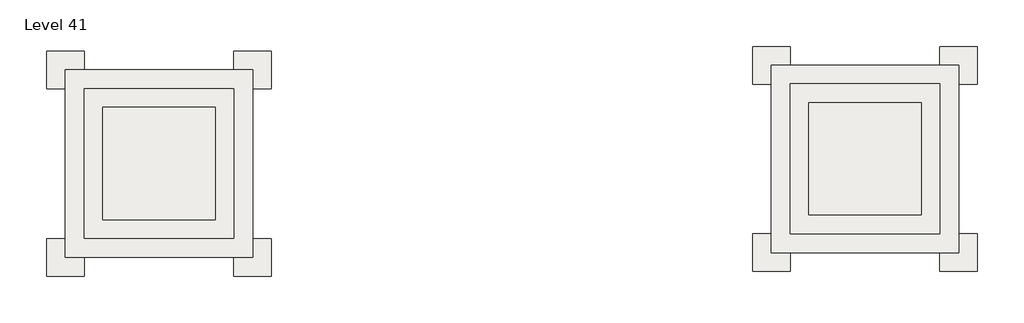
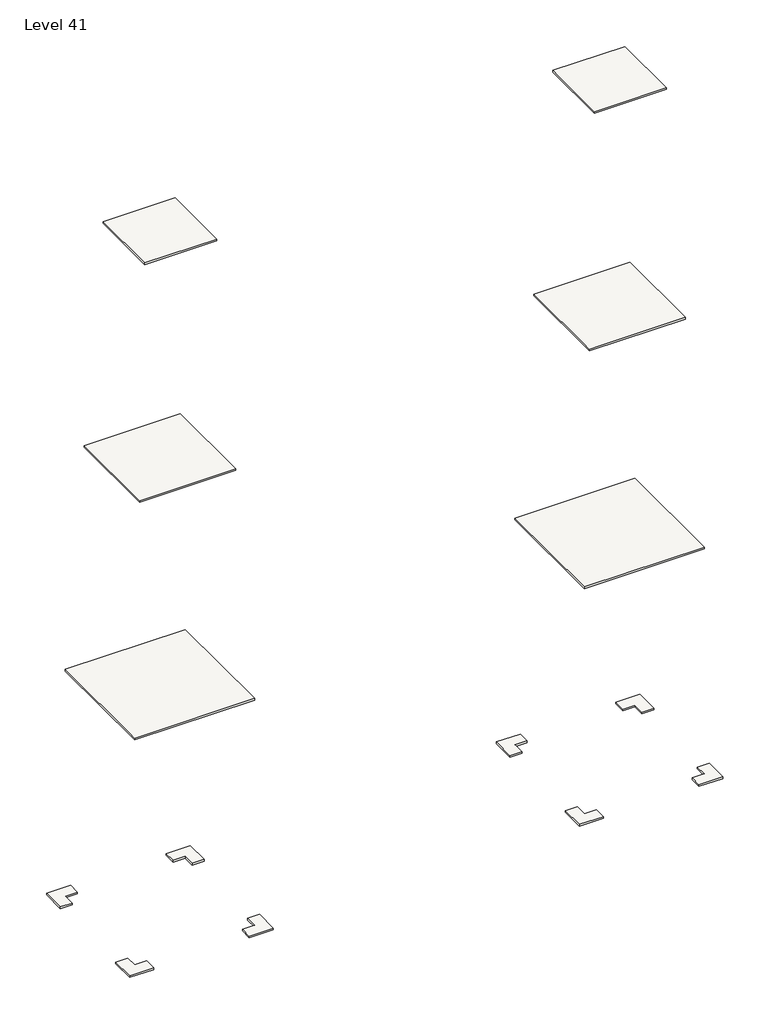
# One storey: 8 roofs.
"""IFC4 building model written with IfcOpenShell, lengths in millimetres."""

import ifcopenshell
import ifcopenshell.guid

model = None  # the IFC model being written
_history = None  # IfcOwnerHistory: only IFC2X3 demands one
_inside = {}  # id of a spatial element -> (the spatial element, [elements in it])
_under = {}  # id of a project, library or spatial element -> (it, [spatial elements below it])
_declared = {}  # id of a project -> (the project, [libraries it declares])
_typed = {}  # id of a type object -> (the type object, [elements of that type])
_made_of = {}  # id of a material, layer set ... -> (it, [elements and type objects made of it])


def new_model(schema):
    """Start an empty IFC model of exactly this schema.

    Asked for "IFC4X3", IfcOpenShell would pick the latest addendum, in which some entities
    have other attributes; the version numbers below select the first issue.
    IFC2X3 requires an IfcOwnerHistory on every rooted entity: one is made here for all.
    """
    global model, _history
    if schema == "IFC4X3":
        model = ifcopenshell.file(schema_version=(4, 3, 0, 0))
    else:
        model = ifcopenshell.file(schema=schema)
    _inside.clear()
    _under.clear()
    _declared.clear()
    _typed.clear()
    _made_of.clear()
    _history = None
    if model.schema == "IFC2X3":
        org = make("IfcOrganization", Name="unknown")
        user = make(
            "IfcPersonAndOrganization",
            ThePerson=make("IfcPerson", FamilyName="unknown"),
            TheOrganization=org,
        )
        app = make(
            "IfcApplication",
            ApplicationDeveloper=org,
            Version="unknown",
            ApplicationFullName="unknown",
            ApplicationIdentifier="unknown",
        )
        _history = make(
            "IfcOwnerHistory",
            OwningUser=user,
            OwningApplication=app,
            ChangeAction="ADDED",
            CreationDate=0,
        )
    return model


def make(cls, **values):
    """One entity of the class cls with the attributes given. An attribute that is None is left unset."""
    return model.create_entity(
        cls, **{name: value for name, value in values.items() if value is not None}
    )


def rooted(cls, **values):
    """An entity with a GlobalId (a new one), such as an element, a storey or a relation."""
    return make(cls, GlobalId=ifcopenshell.guid.new(), OwnerHistory=_history, **values)


def si_unit(unit_type, name, prefix=None):
    """IfcSIUnit, for example si_unit("LENGTHUNIT", "METRE", prefix="MILLI")."""
    return make("IfcSIUnit", UnitType=unit_type, Prefix=prefix, Name=name)


def assignment(units):
    """IfcUnitAssignment: the units of a project."""
    return None if units is None else make("IfcUnitAssignment", Units=units)


def point(xyz):
    """IfcCartesianPoint."""
    return None if xyz is None else make("IfcCartesianPoint", Coordinates=xyz)


def direction(xyz):
    """IfcDirection."""
    return None if xyz is None else make("IfcDirection", DirectionRatios=xyz)


def frame(location, z_axis=None, x_axis=None):
    """IfcAxis2Placement3D, a coordinate frame: its origin and axes. An axis left out is left unset."""
    return make(
        "IfcAxis2Placement3D",
        Location=point(location),
        Axis=direction(z_axis),
        RefDirection=direction(x_axis),
    )


def origin():
    """The frame at (0, 0, 0) with its axes left unset."""
    return frame((0.0, 0.0, 0.0))


def place(relative_to, where):
    """IfcLocalPlacement: puts the frame where relative to a parent placement (None: the world)."""
    return make(
        "IfcLocalPlacement", PlacementRelTo=relative_to, RelativePlacement=where
    )


def context(
    kind, dimensions, precision=None, world=None, true_north=None, identifier=None
):
    """IfcGeometricRepresentationContext, for example the 3D "Model" context."""
    return make(
        "IfcGeometricRepresentationContext",
        ContextIdentifier=identifier,
        ContextType=kind,
        CoordinateSpaceDimension=dimensions,
        Precision=precision,
        WorldCoordinateSystem=world,
        TrueNorth=true_north,
    )


def project(units=None, contexts=None):
    """IfcProject with its units and contexts."""
    return rooted(
        "IfcProject",
        Name="project",
        RepresentationContexts=contexts,
        UnitsInContext=assignment(units),
    )


def spatial(cls, under=None, at=None, **own):
    """A site, building, storey or space (cls), placed at a placement, below another one or the project."""
    s = rooted(cls, ObjectPlacement=at, **own)
    if under is not None:
        _under.setdefault(under.id(), (under, []))[1].append(s)
    return s


def polyline(points):
    """IfcPolyline through the points."""
    return make("IfcPolyline", Points=[point(p) for p in points])


def outline(outer, holes=None, kind="AREA"):
    """IfcArbitraryClosedProfileDef: a profile drawn as a closed curve; with holes, ...WithVoids."""
    if holes is None:
        return make("IfcArbitraryClosedProfileDef", ProfileType=kind, OuterCurve=outer)
    return make(
        "IfcArbitraryProfileDefWithVoids",
        ProfileType=kind,
        OuterCurve=outer,
        InnerCurves=holes,
    )


def extrude(swept, where, along, depth):
    """IfcExtrudedAreaSolid: the profile swept, set in the frame where, extruded along a direction by depth."""
    return make(
        "IfcExtrudedAreaSolid",
        SweptArea=swept,
        Position=where,
        ExtrudedDirection=direction(along),
        Depth=depth,
    )


def shape(context_of_items, identifier, shape_type, items):
    """IfcShapeRepresentation: the items that make up one representation, for example the "Body"."""
    return make(
        "IfcShapeRepresentation",
        ContextOfItems=context_of_items,
        RepresentationIdentifier=identifier,
        RepresentationType=shape_type,
        Items=items,
    )


def made_of(thing, what):
    """Note that an element or type object is made of a material, layer set ...; save() writes the relation."""
    if what is not None:
        _made_of.setdefault(what.id(), (what, []))[1].append(thing)
    return thing


def element(
    cls,
    number,
    at=None,
    inside=None,
    cuts=None,
    type_object=None,
    material=None,
    context=None,
    identifier="Body",
    shape_type=None,
    held_by="IfcProductDefinitionShape",
    body=None,
    shapes=None,
    **own,
):
    """One element of the class cls, such as IfcWall. Its Tag is "e" and its number.

    at: its placement. inside: the storey or other place that contains it. cuts: it is an
    opening in that element (IfcRelVoidsElement). A single representation is given by context,
    identifier, shape_type and body (its items); several are given by shapes. held_by: the class
    of the entity that holds the representations. save() writes the other relations.
    """
    e = rooted(cls, Tag="e%d" % number, ObjectPlacement=at, **own)
    if body is not None:
        shapes = [shape(context, identifier, shape_type, body)]
    if shapes is not None:
        e.Representation = make(held_by, Representations=shapes)
    if inside is not None:
        _inside.setdefault(inside.id(), (inside, []))[1].append(e)
    if cuts is not None:
        rooted(
            "IfcRelVoidsElement", RelatingBuildingElement=cuts, RelatedOpeningElement=e
        )
    if type_object is not None:
        _typed.setdefault(type_object.id(), (type_object, []))[1].append(e)
    return made_of(e, material)


def aggregate(whole, parts):
    """IfcRelAggregates: a whole, such as a stair, and the parts it consists of."""
    return rooted("IfcRelAggregates", RelatingObject=whole, RelatedObjects=parts)


def save(model, path):
    """Write the relations noted so far, then the file.

    IfcRelAggregates (storeys below a building ...), IfcRelContainedInSpatialStructure (elements
    in a storey), IfcRelDefinesByType, IfcRelAssociatesMaterial and IfcRelDeclares: one each for
    every whole, place, type object, material and project.
    """
    for whole, parts in _under.values():
        aggregate(whole, parts)
    for where, things in _inside.values():
        rooted(
            "IfcRelContainedInSpatialStructure",
            RelatedElements=things,
            RelatingStructure=where,
        )
    for kind, things in _typed.values():
        rooted("IfcRelDefinesByType", RelatedObjects=things, RelatingType=kind)
    for what, things in _made_of.values():
        rooted("IfcRelAssociatesMaterial", RelatedObjects=things, RelatingMaterial=what)
    for by, libraries in _declared.values():
        rooted("IfcRelDeclares", RelatingContext=by, RelatedDefinitions=libraries)
    model.write(path)


model = new_model("IFC4")

# Units and contexts
model_context = context("Model", 3, world=origin())
ifc_project = project(units=[si_unit("LENGTHUNIT", "METRE", prefix="MILLI")], contexts=[model_context])

# Site, building, storey
site = spatial("IfcSite", under=ifc_project)
building = spatial("IfcBuilding", under=site)
storey = spatial("IfcBuildingStorey", under=building, Name="Level 41", Elevation=121920.0)

# Roofs
placement = place(None, origin())
element("IfcRoof", 1, ObjectType="Generic - 9\"", at=placement, inside=storey, context=model_context, shape_type="SweptSolid", body=[
    extrude(outline(polyline([(-4075.4161695, -4218.0504489), (-4075.4161695, -7266.0504489), (-7123.4161695, -7266.0504489), (-7123.4161695, -5742.0504489), (-5599.4161695, -5742.0504489), (-5599.4161695, -4218.0504489), (-4075.4161695, -4218.0504489)])), frame((0.0, 0.0, 30251.4), z_axis=(0.0, 0.0, 1.0), x_axis=(1.0, 0.0, 0.0)), (0.0, 0.0, 1.0), 228.6),
    extrude(outline(polyline([(-22363.4161695, -4218.0504489), (-20839.4161695, -4218.0504489), (-20839.4161695, -5742.0504489), (-19315.4161695, -5742.0504489), (-19315.4161695, -7266.0504489), (-22363.4161695, -7266.0504489), (-22363.4161695, -4218.0504489)])), frame((0.0, 0.0, 30251.4), z_axis=(0.0, 0.0, 1.0), x_axis=(1.0, 0.0, 0.0)), (0.0, 0.0, 1.0), 228.6),
    extrude(outline(polyline([(-4075.4161695, 7973.9495511), (-5599.4161695, 7973.9495511), (-5599.4161695, 9497.9495511), (-7123.4161695, 9497.9495511), (-7123.4161695, 11021.9495511), (-4075.4161695, 11021.9495511), (-4075.4161695, 7973.9495511)])), frame((0.0, 0.0, 30251.4), z_axis=(0.0, 0.0, 1.0), x_axis=(1.0, 0.0, 0.0)), (0.0, 0.0, 1.0), 228.6),
    extrude(outline(polyline([(-22363.4161695, 7973.9495511), (-22363.4161695, 11021.9495511), (-19315.4161695, 11021.9495511), (-19315.4161695, 9497.9495511), (-20839.4161695, 9497.9495511), (-20839.4161695, 7973.9495511), (-22363.4161695, 7973.9495511)])), frame((0.0, 0.0, 30251.4), z_axis=(0.0, 0.0, 1.0), x_axis=(1.0, 0.0, 0.0)), (0.0, 0.0, 1.0), 228.6),
])
element("IfcRoof", 2, ObjectType="Generic - 9\"", at=placement, inside=storey, context=model_context, shape_type="SweptSolid", body=[
    extrude(outline(polyline([(-5599.4161695, 9497.9495511), (-5599.4161695, -5742.0504489), (-20839.4161695, -5742.0504489), (-20839.4161695, 9497.9495511), (-5599.4161695, 9497.9495511)])), frame((0.0, 0.0, 60731.4), z_axis=(0.0, 0.0, 1.0), x_axis=(1.0, 0.0, 0.0)), (0.0, 0.0, 1.0), 228.6),
])
element("IfcRoof", 3, ObjectType="Generic - 9\"", at=placement, inside=storey, context=model_context, shape_type="SweptSolid", body=[
    extrude(outline(polyline([(-19315.4161695, 7973.9495511), (-7123.4161695, 7973.9495511), (-7123.4161695, -4218.0504489), (-19315.4161695, -4218.0504489), (-19315.4161695, 7973.9495511)])), frame((0.0, 0.0, 91211.4), z_axis=(0.0, 0.0, 1.0), x_axis=(1.0, 0.0, 0.0)), (0.0, 0.0, 1.0), 228.6),
])
element("IfcRoof", 4, ObjectType="Generic - 9\"", at=placement, inside=storey, context=model_context, shape_type="SweptSolid", body=[
    extrude(outline(polyline([(-8641.8488996, 6449.9495511), (-8641.8488996, -2694.0504489), (-17785.8488996, -2694.0504489), (-17785.8488996, 6449.9495511), (-8641.8488996, 6449.9495511)])), frame((0.0, 0.0, 121691.4), z_axis=(0.0, 0.0, 1.0), x_axis=(1.0, 0.0, 0.0)), (0.0, 0.0, 1.0), 228.6),
])
element("IfcRoof", 5, ObjectType="Generic - 9\"", at=placement, inside=storey, context=model_context, shape_type="SweptSolid", body=[
    extrude(outline(polyline([(53358.2903978, -3840.9095598), (53358.2903978, -6888.9095598), (50310.2903978, -6888.9095598), (50310.2903978, -5364.9095598), (51834.2903978, -5364.9095598), (51834.2903978, -3840.9095598), (53358.2903978, -3840.9095598)])), frame((0.0, 0.0, 30251.4), z_axis=(0.0, 0.0, 1.0), x_axis=(1.0, 0.0, 0.0)), (0.0, 0.0, 1.0), 228.6),
    extrude(outline(polyline([(35070.2903978, -3840.9095598), (36594.2903978, -3840.9095598), (36594.2903978, -5364.9095598), (38118.2903978, -5364.9095598), (38118.2903978, -6888.9095598), (35070.2903978, -6888.9095598), (35070.2903978, -3840.9095598)])), frame((0.0, 0.0, 30251.4), z_axis=(0.0, 0.0, 1.0), x_axis=(1.0, 0.0, 0.0)), (0.0, 0.0, 1.0), 228.6),
    extrude(outline(polyline([(53358.2903978, 8351.0904402), (51834.2903978, 8351.0904402), (51834.2903978, 9875.0904402), (50310.2903978, 9875.0904402), (50310.2903978, 11399.0904402), (53358.2903978, 11399.0904402), (53358.2903978, 8351.0904402)])), frame((0.0, 0.0, 30251.4), z_axis=(0.0, 0.0, 1.0), x_axis=(1.0, 0.0, 0.0)), (0.0, 0.0, 1.0), 228.6),
    extrude(outline(polyline([(35070.2903978, 8351.0904402), (35070.2903978, 11399.0904402), (38118.2903978, 11399.0904402), (38118.2903978, 9875.0904402), (36594.2903978, 9875.0904402), (36594.2903978, 8351.0904402), (35070.2903978, 8351.0904402)])), frame((0.0, 0.0, 30251.4), z_axis=(0.0, 0.0, 1.0), x_axis=(1.0, 0.0, 0.0)), (0.0, 0.0, 1.0), 228.6),
])
element("IfcRoof", 6, ObjectType="Generic - 9\"", at=placement, inside=storey, context=model_context, shape_type="SweptSolid", body=[
    extrude(outline(polyline([(51834.2903978, 9875.0904402), (51834.2903978, -5364.9095598), (36594.2903978, -5364.9095598), (36594.2903978, 9875.0904402), (51834.2903978, 9875.0904402)])), frame((0.0, 0.0, 60731.4), z_axis=(0.0, 0.0, 1.0), x_axis=(1.0, 0.0, 0.0)), (0.0, 0.0, 1.0), 228.6),
])
element("IfcRoof", 7, ObjectType="Generic - 9\"", at=placement, inside=storey, context=model_context, shape_type="SweptSolid", body=[
    extrude(outline(polyline([(38118.2903978, 8351.0904402), (50310.2903978, 8351.0904402), (50310.2903978, -3840.9095598), (38118.2903978, -3840.9095598), (38118.2903978, 8351.0904402)])), frame((0.0, 0.0, 91211.4), z_axis=(0.0, 0.0, 1.0), x_axis=(1.0, 0.0, 0.0)), (0.0, 0.0, 1.0), 228.6),
])
element("IfcRoof", 8, ObjectType="Generic - 9\"", at=placement, inside=storey, context=model_context, shape_type="SweptSolid", body=[
    extrude(outline(polyline([(48791.8576677, 6827.0904402), (48791.8576677, -2316.9095598), (39647.8576677, -2316.9095598), (39647.8576677, 6827.0904402), (48791.8576677, 6827.0904402)])), frame((0.0, 0.0, 121691.4), z_axis=(0.0, 0.0, 1.0), x_axis=(1.0, 0.0, 0.0)), (0.0, 0.0, 1.0), 228.6),
])

save(model, "model.ifc")
